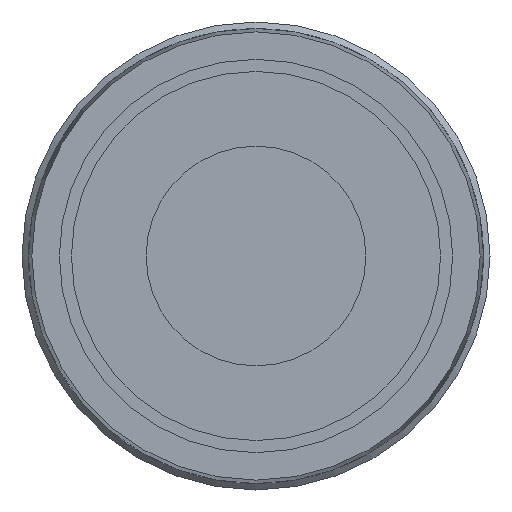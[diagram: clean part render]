
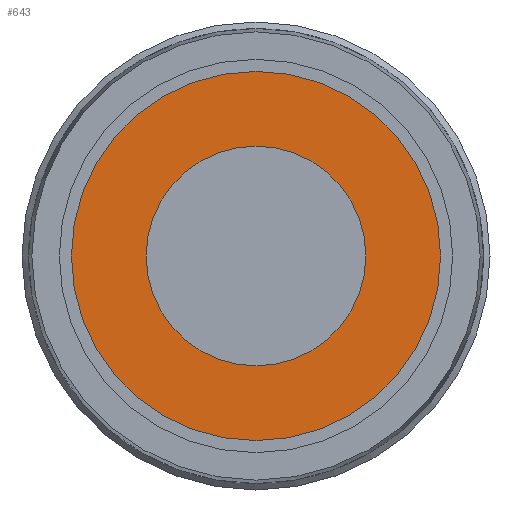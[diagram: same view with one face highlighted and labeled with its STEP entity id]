
A CAD part, front view. The second image highlights one B-rep face of the part: STEP entity #643.
In plain terms, the highlighted planar face has unit normal (0, -1, 0).
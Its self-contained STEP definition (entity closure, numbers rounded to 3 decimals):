
#18=FACE_BOUND('',#180,.T.);
#46=PLANE('',#732);
#139=FACE_OUTER_BOUND('',#179,.T.);
#179=EDGE_LOOP('',(#534,#535));
#180=EDGE_LOOP('',(#536,#537));
#233=CIRCLE('',#730,8.4);
#234=CIRCLE('',#731,8.4);
#235=CIRCLE('',#733,5.);
#236=CIRCLE('',#734,5.);
#302=VERTEX_POINT('',#1131);
#303=VERTEX_POINT('',#1132);
#304=VERTEX_POINT('',#1137);
#305=VERTEX_POINT('',#1138);
#387=EDGE_CURVE('',#302,#303,#233,.T.);
#388=EDGE_CURVE('',#303,#302,#234,.T.);
#390=EDGE_CURVE('',#304,#305,#235,.T.);
#391=EDGE_CURVE('',#305,#304,#236,.T.);
#534=ORIENTED_EDGE('',*,*,#387,.T.);
#535=ORIENTED_EDGE('',*,*,#388,.T.);
#536=ORIENTED_EDGE('',*,*,#390,.F.);
#537=ORIENTED_EDGE('',*,*,#391,.F.);
#643=ADVANCED_FACE('',(#139,#18),#46,.T.);
#730=AXIS2_PLACEMENT_3D('',#1133,#894,#895);
#731=AXIS2_PLACEMENT_3D('',#1134,#896,#897);
#732=AXIS2_PLACEMENT_3D('',#1136,#899,#900);
#733=AXIS2_PLACEMENT_3D('',#1139,#901,#902);
#734=AXIS2_PLACEMENT_3D('',#1140,#903,#904);
#894=DIRECTION('center_axis',(0.,-1.,0.));
#895=DIRECTION('ref_axis',(1.,0.,0.));
#896=DIRECTION('center_axis',(0.,-1.,0.));
#897=DIRECTION('ref_axis',(1.,0.,0.));
#899=DIRECTION('center_axis',(0.,-1.,0.));
#900=DIRECTION('ref_axis',(0.,0.,-1.));
#901=DIRECTION('center_axis',(0.,-1.,0.));
#902=DIRECTION('ref_axis',(1.,0.,0.));
#903=DIRECTION('center_axis',(0.,-1.,0.));
#904=DIRECTION('ref_axis',(1.,0.,0.));
#1131=CARTESIAN_POINT('',(8.4,0.,0.));
#1132=CARTESIAN_POINT('',(-8.4,0.,0.));
#1133=CARTESIAN_POINT('Origin',(0.,0.,0.));
#1134=CARTESIAN_POINT('Origin',(0.,0.,0.));
#1136=CARTESIAN_POINT('Origin',(5.,0.,0.));
#1137=CARTESIAN_POINT('',(5.,0.,0.));
#1138=CARTESIAN_POINT('',(-5.,0.,0.));
#1139=CARTESIAN_POINT('Origin',(0.,0.,0.));
#1140=CARTESIAN_POINT('Origin',(0.,0.,0.));
